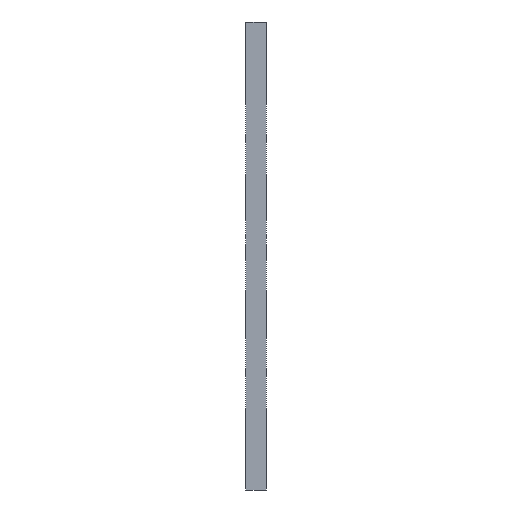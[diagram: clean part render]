
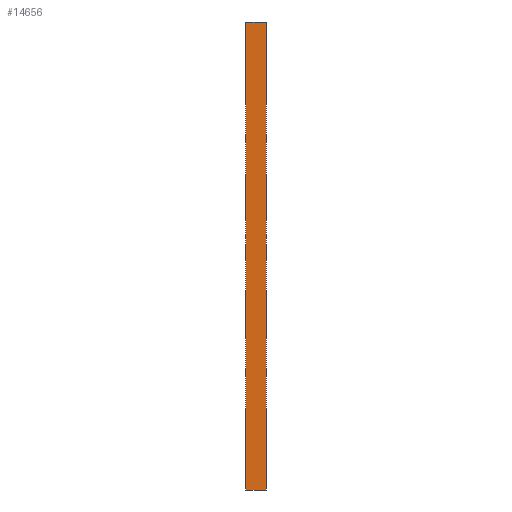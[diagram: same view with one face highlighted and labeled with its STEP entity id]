
A CAD part, left-side view. The second image highlights one B-rep face of the part: STEP entity #14656.
In plain terms, the highlighted planar face has unit normal (-1, 0, 0).
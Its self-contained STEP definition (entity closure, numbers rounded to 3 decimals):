
#35 = EDGE_CURVE ( 'NONE', #19314, #7636, #680, .T. ) ;
#660 = CARTESIAN_POINT ( 'NONE',  ( -225., 13., -150. ) ) ;
#680 = LINE ( 'NONE', #5828, #11893 ) ;
#1059 = LINE ( 'NONE', #660, #18553 ) ;
#1870 = LINE ( 'NONE', #15871, #14829 ) ;
#1980 = CARTESIAN_POINT ( 'NONE',  ( -225., 0., 150. ) ) ;
#1983 = EDGE_LOOP ( 'NONE', ( #4830, #9058, #19642, #3452 ) ) ;
#2630 = VERTEX_POINT ( 'NONE', #11179 ) ;
#3452 = ORIENTED_EDGE ( 'NONE', *, *, #4966, .T. ) ;
#3905 = FACE_OUTER_BOUND ( 'NONE', #1983, .T. ) ;
#4152 = CARTESIAN_POINT ( 'NONE',  ( -225., 13., -150. ) ) ;
#4830 = ORIENTED_EDGE ( 'NONE', *, *, #16263, .T. ) ;
#4966 = EDGE_CURVE ( 'NONE', #8155, #2630, #1059, .T. ) ;
#5429 = DIRECTION ( 'NONE',  ( 0., -1., 0. ) ) ;
#5726 = CARTESIAN_POINT ( 'NONE',  ( -225., 13., -150. ) ) ;
#5828 = CARTESIAN_POINT ( 'NONE',  ( -225., 13., 150. ) ) ;
#6684 = DIRECTION ( 'NONE',  ( 0., 0., 1. ) ) ;
#7254 = CARTESIAN_POINT ( 'NONE',  ( -225., 13., 150. ) ) ;
#7356 = AXIS2_PLACEMENT_3D ( 'NONE', #5726, #17924, #18027 ) ;
#7636 = VERTEX_POINT ( 'NONE', #1980 ) ;
#7898 = VECTOR ( 'NONE', #6684, 1000. ) ;
#8155 = VERTEX_POINT ( 'NONE', #4152 ) ;
#9058 = ORIENTED_EDGE ( 'NONE', *, *, #35, .F. ) ;
#10097 = PLANE ( 'NONE',  #7356 ) ;
#10602 = DIRECTION ( 'NONE',  ( 0., -1., 0. ) ) ;
#11179 = CARTESIAN_POINT ( 'NONE',  ( -225., 0., -150. ) ) ;
#11719 = EDGE_CURVE ( 'NONE', #8155, #19314, #17274, .T. ) ;
#11893 = VECTOR ( 'NONE', #10602, 1000. ) ;
#14411 = CARTESIAN_POINT ( 'NONE',  ( -225., 13., -150. ) ) ;
#14546 = DIRECTION ( 'NONE',  ( 0., 0., 1. ) ) ;
#14656 = ADVANCED_FACE ( 'NONE', ( #3905 ), #10097, .F. ) ;
#14829 = VECTOR ( 'NONE', #14546, 1000. ) ;
#15871 = CARTESIAN_POINT ( 'NONE',  ( -225., 0., -150. ) ) ;
#16263 = EDGE_CURVE ( 'NONE', #2630, #7636, #1870, .T. ) ;
#17274 = LINE ( 'NONE', #14411, #7898 ) ;
#17924 = DIRECTION ( 'NONE',  ( 1., 0., 0. ) ) ;
#18027 = DIRECTION ( 'NONE',  ( 0., 0., -1. ) ) ;
#18553 = VECTOR ( 'NONE', #5429, 1000. ) ;
#19314 = VERTEX_POINT ( 'NONE', #7254 ) ;
#19642 = ORIENTED_EDGE ( 'NONE', *, *, #11719, .F. ) ;
